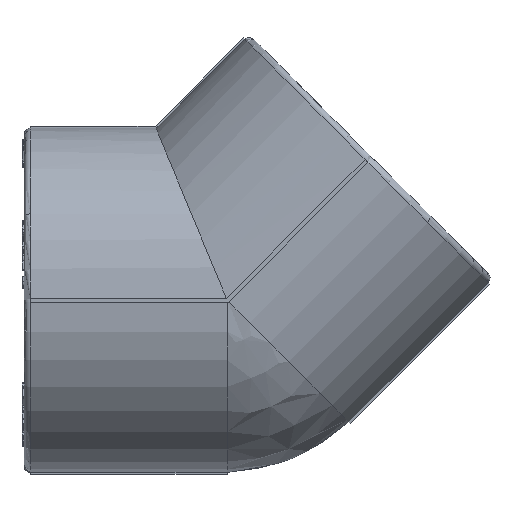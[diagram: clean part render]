
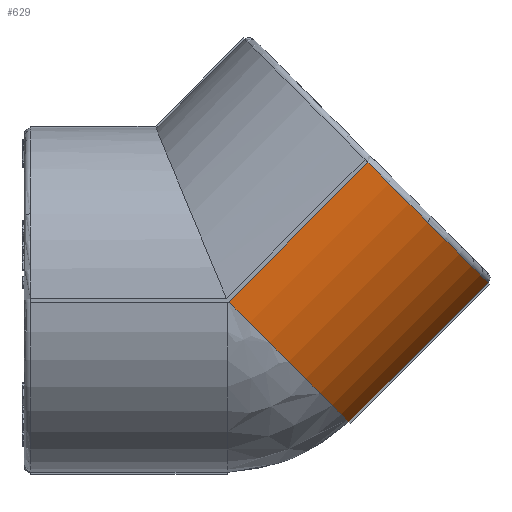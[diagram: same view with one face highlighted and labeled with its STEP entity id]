
A CAD part, left-side view. The second image highlights one B-rep face of the part: STEP entity #629.
In plain terms, the highlighted cylindrical face has radius 41.5 mm (diameter 83 mm), a partial arc.
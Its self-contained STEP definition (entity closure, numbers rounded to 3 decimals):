
#629=ADVANCED_FACE('',(#4422),#4424,.T.);
#4422=FACE_BOUND('',#4423,.T.);
#4423=EDGE_LOOP('',(#8775,#8776,#8777,#8778));
#4424=CYLINDRICAL_SURFACE('',#4425,41.5);
#4425=AXIS2_PLACEMENT_3D('',#4426,#4427,#4428);
#4426=CARTESIAN_POINT('',(0.,0.,0.));
#4427=DIRECTION('',(0.,-0.707,0.707));
#4428=DIRECTION('',(1.,0.,0.));
#8775=ORIENTED_EDGE('',*,*,#10464,.F.);
#8776=ORIENTED_EDGE('',*,*,#10453,.F.);
#8777=ORIENTED_EDGE('',*,*,#10465,.F.);
#8778=ORIENTED_EDGE('',*,*,#10431,.F.);
#10431=EDGE_CURVE('',#13140,#13143,#13144,.T.);
#10453=EDGE_CURVE('',#13175,#13177,#13178,.T.);
#10464=EDGE_CURVE('',#13177,#13140,#13194,.F.);
#10465=EDGE_CURVE('',#13143,#13175,#13195,.T.);
#13140=VERTEX_POINT('',#19081);
#13143=VERTEX_POINT('',#19087);
#13144=CIRCLE('',#19088,41.5);
#13175=VERTEX_POINT('',#19171);
#13177=VERTEX_POINT('',#19176);
#13178=CIRCLE('',#19177,41.5);
#13194=LINE('',#19220,#19221);
#13195=LINE('',#19223,#19224);
#19081=CARTESIAN_POINT('',(-0.5,-29.343,-29.343));
#19087=CARTESIAN_POINT('',(-41.497,-0.354,-0.354));
#19088=AXIS2_PLACEMENT_3D('',#19089,#19090,#19091);
#19089=CARTESIAN_POINT('',(0.,0.,0.));
#19090=DIRECTION('',(0.,0.707,-0.707));
#19091=DIRECTION('',(-0.012,-0.707,-0.707));
#19171=CARTESIAN_POINT('',(-41.497,-33.941,33.234));
#19176=CARTESIAN_POINT('',(-0.5,-62.93,4.245));
#19177=AXIS2_PLACEMENT_3D('',#19178,#19179,#19180);
#19178=CARTESIAN_POINT('',(0.,-33.588,33.588));
#19179=DIRECTION('',(0.,-0.707,0.707));
#19180=DIRECTION('',(-1.,-0.009,-0.009));
#19220=CARTESIAN_POINT('',(-0.5,-29.343,-29.343));
#19221=VECTOR('',#19222,1.);
#19222=DIRECTION('',(0.,-0.707,0.707));
#19223=CARTESIAN_POINT('',(-41.497,-0.354,-0.354));
#19224=VECTOR('',#19225,1.);
#19225=DIRECTION('',(0.,-0.707,0.707));
